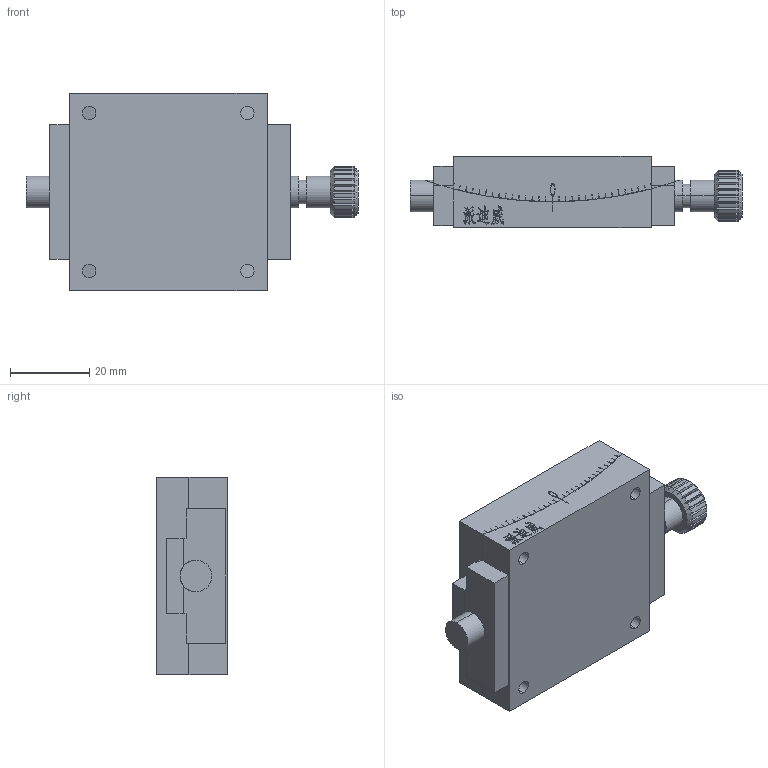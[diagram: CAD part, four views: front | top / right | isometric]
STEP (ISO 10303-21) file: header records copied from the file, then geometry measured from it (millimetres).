
FILE_DESCRIPTION (( 'STEP AP214' ), '1' );
FILE_NAME ('PT-SD386.STEP', '2022-11-06T07:38:34', ( '' ), ( '' ), 'SwSTEP 2.0', 'SolidWorks 2017', '' );
FILE_SCHEMA (( 'AUTOMOTIVE_DESIGN' ));
Length unit declared in the file: millimetre
Products named in the file (3): PT-SD350-4; PT-SD350-3; PT-SD386
Assembly tree (2 placements, depth 2):
  PT-SD386
    PT-SD350-3
    PT-SD350-4
Bounding box: 84 x 18 x 50 mm (x, y, z)
Volume: 50136.6 mm3; surface area: 17555 mm2
Topology: 2 solids, 2 shells, 659 faces, 1869 edges, 1223 vertices
Faces by surface type: plane 459, bspline 92, cylinder 78, cone 30
Entity records: 25893 total; most frequent: CARTESIAN_POINT 9142, ORIENTED_EDGE 3686, DIRECTION 2923, EDGE_CURVE 1843, LINE 1323, VECTOR 1323, VERTEX_POINT 1223, AXIS2_PLACEMENT_3D 800
